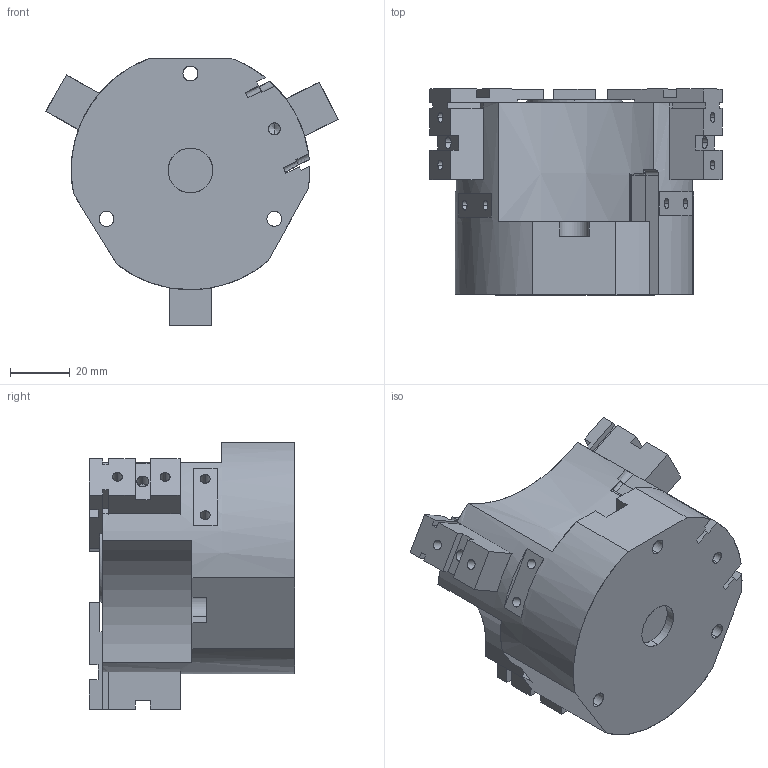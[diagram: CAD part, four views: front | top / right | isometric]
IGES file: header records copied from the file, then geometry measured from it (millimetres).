
Start section: SolidWorks IGES file using analytic representation for surfaces
Global section: file name: C:\Documents and Settings\SGA\Bureau\ROMAIN\OPE 80-3\OPE 80-3 ouvert.IGS; native system: SolidWorks 2010; preprocessor: SolidWorks 2010; author: SGA; date: 110928.093326; units: millimetre
Bounding box: 97.99 x 69 x 89.48 mm (x, y, z)
Surface area: 50720.8 mm2 (no closed solid volume)
Topology: 0 solids, 0 shells, 593 faces, 6734 edges, 6688 vertices
Faces by surface type: bspline 473, revolution 120
